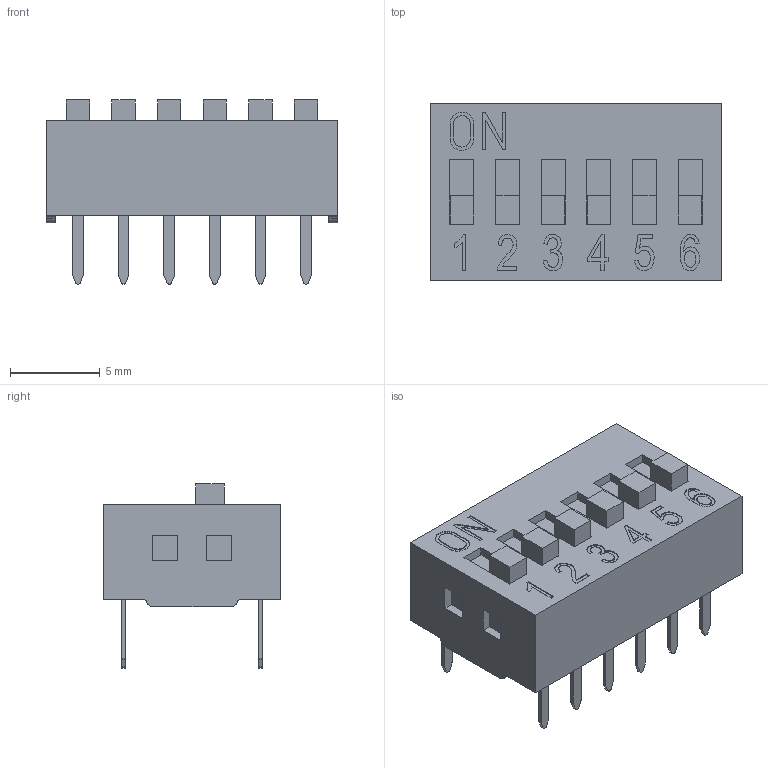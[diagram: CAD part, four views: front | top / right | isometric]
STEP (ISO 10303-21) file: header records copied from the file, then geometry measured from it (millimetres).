
FILE_DESCRIPTION(('FreeCAD Model'),'2;1');
FILE_NAME('C:/Users/Metaltex-99/Desktop/DS-06.stp','2020-08-11T08:48:54' ,('Engenharia Metaltex'),('Metaltex'), 'Open CASCADE STEP processor 7.3','FreeCAD','Unknown');
FILE_SCHEMA(('AUTOMOTIVE_DESIGN { 1 0 10303 214 1 1 1 1 }'));
Length unit declared in the file: millimetre
Products named in the file (1): DS-06
Bounding box: 16.24 x 9.9 x 10.25 mm (x, y, z)
Surface area: 1809.3 mm2 (no closed solid volume)
Topology: 0 solids, 20 shells, 479 faces, 1230 edges, 820 vertices
Faces by surface type: plane 366, bspline 57, cylinder 56
Entity records: 31096 total; most frequent: CARTESIAN_POINT 6733, DIRECTION 4202, LINE 3124, VECTOR 3124, ORIENTED_EDGE 2460, PCURVE 2460, DEFINITIONAL_REPRESENTATION 2460, EDGE_CURVE 1230
